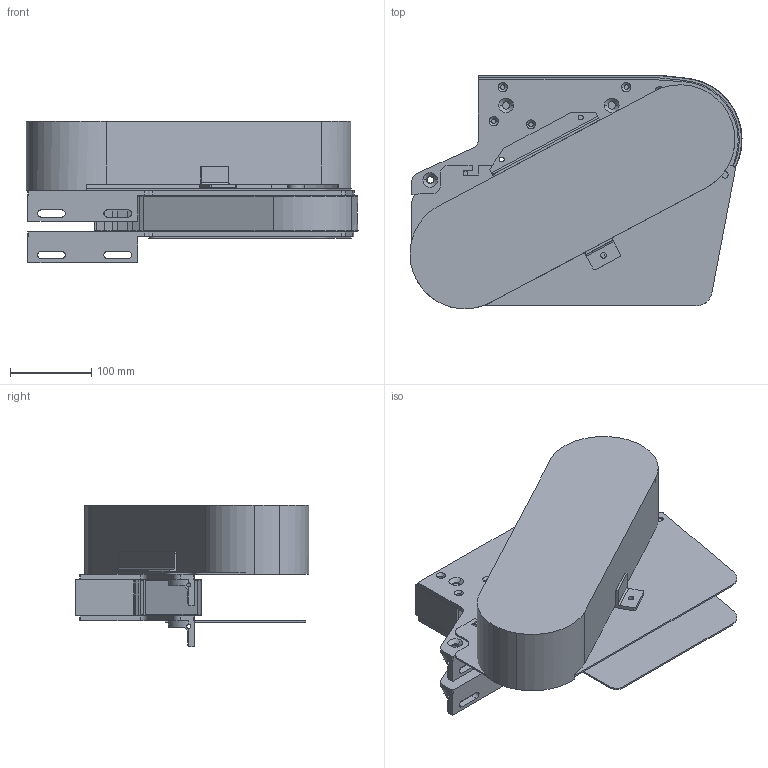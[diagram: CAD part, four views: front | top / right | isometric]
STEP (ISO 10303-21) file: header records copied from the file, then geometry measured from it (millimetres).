
FILE_DESCRIPTION (( 'STEP AP214' ), '1' );
FILE_NAME ('FKSD-0R.step', '2017-04-07T11:07:24', ( '' ), ( '' ), 'SwSTEP 2.0', 'SolidWorks 2016', '' );
FILE_SCHEMA (( 'AUTOMOTIVE_DESIGN' ));
Length unit declared in the file: millimetre
Products named in the file (1): FKSD-0R
Bounding box: 408.63 x 287.78 x 174 mm (x, y, z)
Volume: 2758119.2 mm3; surface area: 647586.4 mm2
Topology: 2 solids, 3 shells, 495 faces, 1258 edges, 798 vertices
Faces by surface type: cylinder 227, plane 187, cone 60, bspline 17, torus 4
Entity records: 18663 total; most frequent: CARTESIAN_POINT 4371, DIRECTION 2681, ORIENTED_EDGE 2516, EDGE_CURVE 1258, AXIS2_PLACEMENT_3D 1000, VERTEX_POINT 798, VECTOR 681, LINE 681
